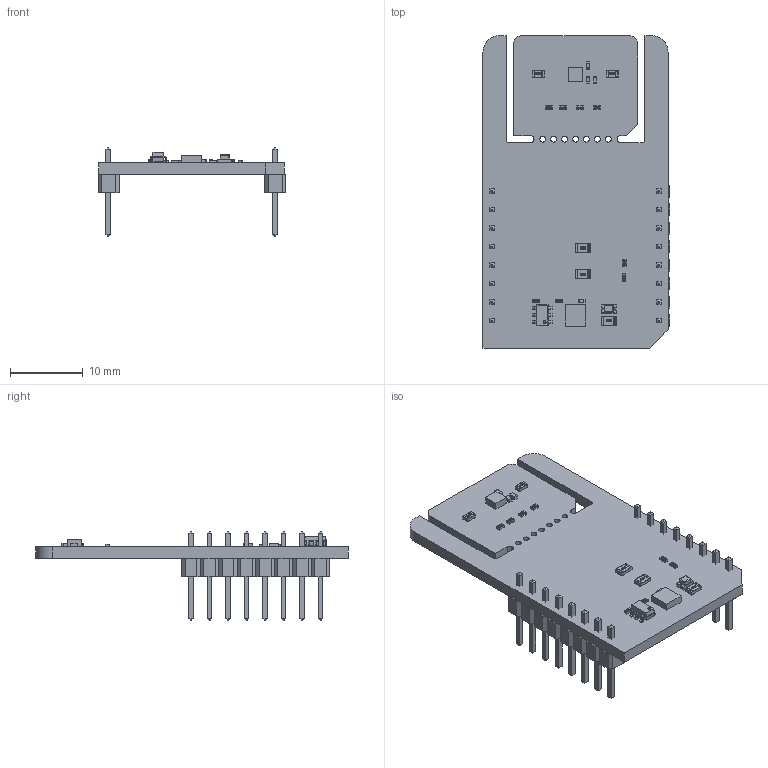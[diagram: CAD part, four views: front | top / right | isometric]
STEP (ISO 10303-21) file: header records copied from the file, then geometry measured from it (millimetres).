
FILE_DESCRIPTION(('Open CASCADE Model'),'2;1');
FILE_NAME('Open CASCADE Shape Model','2025-10-07T15:02:13',('Author'),( 'Open CASCADE'),'Open CASCADE STEP processor 6.8','Open CASCADE 6.8' ,'Unknown');
FILE_SCHEMA(('AUTOMOTIVE_DESIGN { 1 0 10303 214 1 1 1 1 }'));
Length unit declared in the file: millimetre
Products named in the file (40): PCB; Board; U3; -1941453128; Extruded; R10; User_Library-R_0402; R9; R8; R7; R6; R5; R2; JP4; User_Library-R_0603; JP3; User_Library-R_0805; JP2; C4; User_Library-SMD_CAPACITOR0402; C3; C2; JP1; MBD1; Header_1x8; Free-Models; 1240637040; User_Library-PinHeaderX5-1_PinHeaderX5_Body_1; User_Library-PinHeaderX5-1_PinHeaderX5_Pins_1; R3; R1; LD1; led_0805_green; C1; U1; -1872424408; U2; User_Library-SOT23-6-2
Assembly tree (54 placements, depth 7):
  PCB
    Board
    U3
      -1941453128
        Extruded
    R10
      User_Library-R_0402
    R9
      User_Library-R_0402
    R8
      User_Library-R_0402
    R7
      User_Library-R_0402
    R6
      User_Library-R_0402
    R5
      User_Library-R_0402
    R2
      User_Library-R_0402
    JP4
      User_Library-R_0603
    JP3
      User_Library-R_0805
    JP2
      User_Library-R_0805
    C4
      User_Library-SMD_CAPACITOR0402
    C3
      User_Library-SMD_CAPACITOR0402
    C2
      User_Library-SMD_CAPACITOR0402
    JP1
      User_Library-R_0603
    MBD1
      Header_1x8  x2
        PCB
          Free-Models
            1240637040  x2
              User_Library-PinHeaderX5-1_PinHeaderX5_Body_1
              User_Library-PinHeaderX5-1_PinHeaderX5_Pins_1
    R3
      User_Library-R_0402
    R1
      User_Library-R_0805
    LD1
      led_0805_green
    C1
      User_Library-SMD_CAPACITOR0402
    U1
      -1872424408
        Extruded
    U2
      User_Library-SOT23-6-2
Bounding box: 25.78 x 42.93 x 12.19 mm (x, y, z)
Volume: 2153.5 mm3; surface area: 3935.8 mm2
Topology: 69 solids, 69 shells, 2019 faces, 5064 edges, 3252 vertices
Faces by surface type: plane 1443, bspline 424, cylinder 114, sphere 38
Full cylindrical faces by diameter (mm): 0.8 x7
Entity records: 29425 total; most frequent: CARTESIAN_POINT 10547, ORIENTED_EDGE 3192, DIRECTION 2663, EDGE_CURVE 1596, LINE 1231, VECTOR 1231, VERTEX_POINT 1028, AXIS2_PLACEMENT_3D 716
